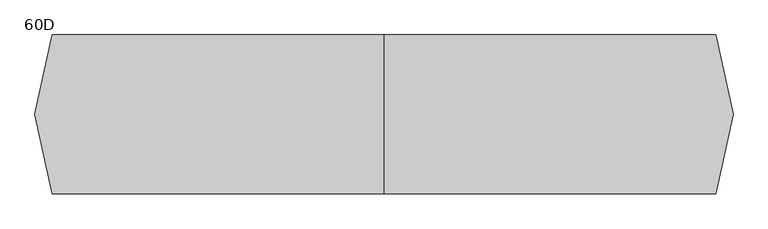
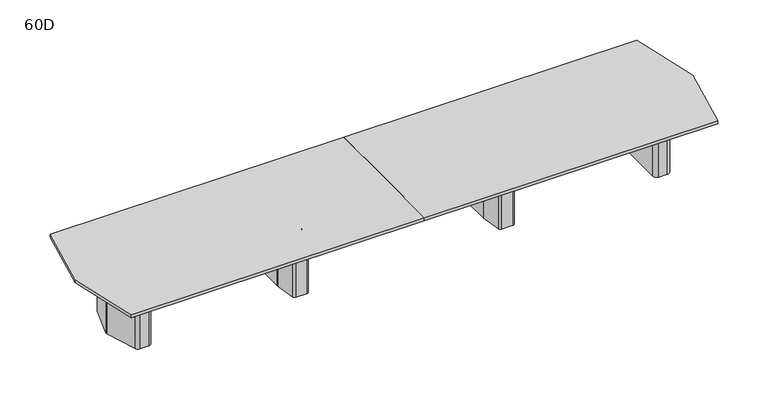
"""IFC4 building model written with IfcOpenShell, lengths in millimetres: furniture geometry, Coalesse_AM_Table_Conference_ETable2_Faceted_22ft_FourBase : 60D."""

from ifc_helpers import new_model, si_unit, point, frame, frame_2d, origin, origin_with_axes, place, context, project, spatial, polyline, circle_curve, trimmed, segment, composite_curve, outline, extrude, source, transform, mapped, element, save
from ifc_brep_helpers import plane_surface, cylinder_surface, revolved_surface, advanced_brep


def furniture_60d_aebbef4b(model_context):
    return source(origin(), model_context, "Body", "SolidModel", [
        advanced_brep(
        [(1178.6357815, 381.0, 698.5), (1056.5642185, 381.0, 698.5), (1031.4114006, 359.1349332, 698.5), (1000.3721821, 138.2753661, 698.5), (1000.125, 134.740433, 698.5), (1000.125, -134.7404196, 698.5), (1000.3721537, -138.2751502, 698.5), (1031.4095605, -359.1347306, 698.5), (1056.5624068, -381.0, 698.5), (1178.6375932, -381.0, 698.5), (1203.7904395, -359.1347306, 698.5), (1234.8278463, -138.2751502, 698.5), (1235.075, -134.7404196, 698.5), (1235.075, 134.740433, 698.5), (1234.8278179, 138.2753661, 698.5), (1203.7885994, 359.1349332, 698.5), (1143.0, 314.325, 698.5), (1168.4, 288.925, 698.5), (1168.4, -288.925, 698.5), (1143.0, -314.325, 698.5), (1092.2, -314.325, 698.5), (1066.8, -288.925, 698.5), (1066.8, 288.925, 698.5), (1092.2, 314.325, 698.5), (1178.6357815, 381.0, 3.175), (1203.7885994, 359.1349332, 3.175), (1234.8278179, 138.2753661, 3.175), (1235.075, 134.740433, 3.175), (1235.075, -134.7404196, 3.175), (1234.8278463, -138.2751502, 3.175), (1203.7904395, -359.1347306, 3.175), (1178.6375932, -381.0, 3.175), (1056.5624068, -381.0, 3.175), (1031.4095605, -359.1347306, 3.175), (1000.3721537, -138.2751502, 3.175), (1000.125, -134.7404196, 3.175), (1000.125, 134.740433, 3.175), (1000.3721821, 138.2753661, 3.175), (1031.4114006, 359.1349332, 3.175), (1056.5642185, 381.0, 3.175), (1143.0, 327.025, 3.175), (1092.2, 327.025, 3.175), (1054.1, 288.925, 3.175), (1054.1, -288.925, 3.175), (1092.2, -327.025, 3.175), (1143.0, -327.025, 3.175), (1181.1, -288.925, 3.175), (1181.1, 288.925, 3.175), (1143.0, 314.325, 3.175), (1168.4, 288.925, 3.175), (1168.4, -288.925, 3.175), (1143.0, -314.325, 3.175), (1092.2, -314.325, 3.175), (1066.8, -288.925, 3.175), (1066.8, 288.925, 3.175), (1092.2, 314.325, 3.175), (1143.0, 327.025, 0.0), (1181.1, 288.925, 0.0), (1181.1, -288.925, 0.0), (1143.0, -327.025, 0.0), (1092.2, -327.025, 0.0), (1054.1, -288.925, 0.0), (1054.1, 288.925, 0.0), (1092.2, 327.025, 0.0)],
        [
            (0, 1),
            (1, 2, circle_curve(frame((1056.5642185, 355.6, 698.5), z_axis=(0.0, 0.0, 1.0), x_axis=(1.0, 0.0, 0.0)), 25.4)),
            (2, 3),
            (3, 4, circle_curve(frame((1025.525, 134.740433, 698.5), z_axis=(0.0, 0.0, 1.0), x_axis=(1.0, 0.0, 0.0)), 25.4)),
            (4, 5),
            (5, 6, circle_curve(frame((1025.525, -134.7404196, 698.5), z_axis=(0.0, 0.0, 1.0), x_axis=(1.0, 0.0, 0.0)), 25.4)),
            (6, 7),
            (7, 8, circle_curve(frame((1056.5624068, -355.6, 698.5), z_axis=(0.0, 0.0, 1.0), x_axis=(1.0, 0.0, 0.0)), 25.4)),
            (8, 9),
            (9, 10, circle_curve(frame((1178.6375932, -355.6, 698.5), z_axis=(0.0, 0.0, 1.0), x_axis=(1.0, 0.0, 0.0)), 25.4)),
            (10, 11),
            (11, 12, circle_curve(frame((1209.675, -134.7404196, 698.5), z_axis=(0.0, 0.0, 1.0), x_axis=(1.0, 0.0, 0.0)), 25.4)),
            (12, 13),
            (13, 14, circle_curve(frame((1209.675, 134.740433, 698.5), z_axis=(0.0, 0.0, 1.0), x_axis=(1.0, 0.0, 0.0)), 25.4)),
            (14, 15),
            (15, 0, circle_curve(frame((1178.6357815, 355.6, 698.5), z_axis=(0.0, 0.0, 1.0), x_axis=(1.0, 0.0, 0.0)), 25.4)),
            (16, 17, circle_curve(frame((1143.0, 288.925, 698.5), z_axis=(0.0, 0.0, -1.0), x_axis=(1.0, 0.0, 0.0)), 25.4)),
            (17, 18),
            (18, 19, circle_curve(frame((1143.0, -288.925, 698.5), z_axis=(0.0, 0.0, -1.0), x_axis=(1.0, 0.0, 0.0)), 25.4)),
            (19, 20),
            (20, 21, circle_curve(frame((1092.2, -288.925, 698.5), z_axis=(0.0, 0.0, -1.0), x_axis=(1.0, 0.0, 0.0)), 25.4)),
            (21, 22),
            (22, 23, circle_curve(frame((1092.2, 288.925, 698.5), z_axis=(0.0, 0.0, -1.0), x_axis=(1.0, 0.0, 0.0)), 25.4)),
            (23, 16),
            (24, 25, circle_curve(frame((1178.6357815, 355.6, 3.175), z_axis=(0.0, 0.0, -1.0), x_axis=(1.0, 0.0, 0.0)), 25.4)),
            (25, 26),
            (26, 27, circle_curve(frame((1209.675, 134.740433, 3.175), z_axis=(0.0, 0.0, -1.0), x_axis=(1.0, 0.0, 0.0)), 25.4)),
            (27, 28),
            (28, 29, circle_curve(frame((1209.675, -134.7404196, 3.175), z_axis=(0.0, 0.0, -1.0), x_axis=(1.0, 0.0, 0.0)), 25.4)),
            (29, 30),
            (30, 31, circle_curve(frame((1178.6375932, -355.6, 3.175), z_axis=(0.0, 0.0, -1.0), x_axis=(1.0, 0.0, 0.0)), 25.4)),
            (31, 32),
            (32, 33, circle_curve(frame((1056.5624068, -355.6, 3.175), z_axis=(0.0, 0.0, -1.0), x_axis=(1.0, 0.0, 0.0)), 25.4)),
            (33, 34),
            (34, 35, circle_curve(frame((1025.525, -134.7404196, 3.175), z_axis=(0.0, 0.0, -1.0), x_axis=(1.0, 0.0, 0.0)), 25.4)),
            (35, 36),
            (36, 37, circle_curve(frame((1025.525, 134.740433, 3.175), z_axis=(0.0, 0.0, -1.0), x_axis=(1.0, 0.0, 0.0)), 25.4)),
            (37, 38),
            (38, 39, circle_curve(frame((1056.5642185, 355.6, 3.175), z_axis=(0.0, 0.0, -1.0), x_axis=(1.0, 0.0, 0.0)), 25.4)),
            (39, 24),
            (40, 41),
            (41, 42, circle_curve(frame((1092.2, 288.925, 3.175), z_axis=(0.0, 0.0, 1.0), x_axis=(1.0, 0.0, 0.0)), 38.1)),
            (42, 43),
            (43, 44, circle_curve(frame((1092.2, -288.925, 3.175), z_axis=(0.0, 0.0, 1.0), x_axis=(1.0, 0.0, 0.0)), 38.1)),
            (44, 45),
            (45, 46, circle_curve(frame((1143.0, -288.925, 3.175), z_axis=(0.0, 0.0, 1.0), x_axis=(1.0, 0.0, 0.0)), 38.1)),
            (46, 47),
            (47, 40, circle_curve(frame((1143.0, 288.925, 3.175), z_axis=(0.0, 0.0, 1.0), x_axis=(1.0, 0.0, 0.0)), 38.1)),
            (0, 24),
            (39, 1),
            (38, 2),
            (37, 3),
            (36, 4),
            (35, 5),
            (34, 6),
            (33, 7),
            (32, 8),
            (31, 9),
            (30, 10),
            (29, 11),
            (28, 12),
            (27, 13),
            (26, 14),
            (25, 15),
            (16, 48),
            (48, 49, circle_curve(frame((1143.0, 288.925, 3.175), z_axis=(0.0, 0.0, -1.0), x_axis=(1.0, 0.0, 0.0)), 25.4)),
            (49, 17),
            (49, 50),
            (50, 18),
            (50, 51, circle_curve(frame((1143.0, -288.925, 3.175), z_axis=(0.0, 0.0, -1.0), x_axis=(1.0, 0.0, 0.0)), 25.4)),
            (51, 19),
            (51, 52),
            (52, 20),
            (52, 53, circle_curve(frame((1092.2, -288.925, 3.175), z_axis=(0.0, 0.0, -1.0), x_axis=(1.0, 0.0, 0.0)), 25.4)),
            (53, 21),
            (53, 54),
            (54, 22),
            (54, 55, circle_curve(frame((1092.2, 288.925, 3.175), z_axis=(0.0, 0.0, -1.0), x_axis=(1.0, 0.0, 0.0)), 25.4)),
            (55, 23),
            (55, 48),
            (56, 57, circle_curve(frame((1143.0, 288.925, 0.0), z_axis=(0.0, 0.0, -1.0), x_axis=(1.0, 0.0, 0.0)), 38.1)),
            (57, 58),
            (58, 59, circle_curve(frame((1143.0, -288.925, 0.0), z_axis=(0.0, 0.0, -1.0), x_axis=(1.0, 0.0, 0.0)), 38.1)),
            (59, 60),
            (60, 61, circle_curve(frame((1092.2, -288.925, 0.0), z_axis=(0.0, 0.0, -1.0), x_axis=(1.0, 0.0, 0.0)), 38.1)),
            (61, 62),
            (62, 63, circle_curve(frame((1092.2, 288.925, 0.0), z_axis=(0.0, 0.0, -1.0), x_axis=(1.0, 0.0, 0.0)), 38.1)),
            (63, 56),
            (63, 41),
            (40, 56),
            (62, 42),
            (61, 43),
            (60, 44),
            (59, 45),
            (58, 46),
            (57, 47),
        ],
        [
            plane_surface(frame((-406.4, 381.0, 698.5), z_axis=(0.0, 0.0, 1.0), x_axis=(-1.0, 0.0, 0.0))),
            plane_surface(frame((-406.4, 381.0, 3.175), z_axis=(0.0, 0.0, -1.0), x_axis=(1.0, 0.0, 0.0))),
            plane_surface(frame((1178.6357815, 381.0, 698.5), z_axis=(0.0, 1.0, 0.0), x_axis=(0.0, 0.0, -1.0))),
            cylinder_surface(frame((1056.5642185, 355.6, 3.175), z_axis=(0.0, 0.0, 1.0), x_axis=(1.0, 0.0, 0.0)), 25.4),
            plane_surface(frame((1031.4114006, 359.1349332, 698.5), z_axis=(-0.9902684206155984, 0.13917059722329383, 0.0), x_axis=(0.0, 0.0, -1.0))),
            cylinder_surface(frame((1025.525, 134.740433, 3.175), z_axis=(0.0, 0.0, 1.0), x_axis=(1.0, 0.0, 0.0)), 25.4),
            plane_surface(frame((1000.125, 134.740433, 698.5), z_axis=(-1.0, 0.0, 0.0), x_axis=(0.0, 0.0, -1.0))),
            cylinder_surface(frame((1025.525, -134.7404196, 3.175), z_axis=(0.0, 0.0, 1.0), x_axis=(1.0, 0.0, 0.0)), 25.4),
            plane_surface(frame((1000.3721537, -138.2751502, 698.5), z_axis=(-0.9902695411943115, -0.1391626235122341, 0.0), x_axis=(0.0, 0.0, -1.0))),
            cylinder_surface(frame((1056.5624068, -355.6, 3.175), z_axis=(0.0, 0.0, 1.0), x_axis=(1.0, 0.0, 0.0)), 25.4),
            plane_surface(frame((1056.5624068, -381.0, 698.5), z_axis=(0.0, -1.0, 0.0), x_axis=(0.0, 0.0, -1.0))),
            cylinder_surface(frame((1178.6375932, -355.6, 3.175), z_axis=(0.0, 0.0, 1.0), x_axis=(1.0, 0.0, 0.0)), 25.4),
            plane_surface(frame((1203.7904395, -359.1347306, 698.5), z_axis=(0.9902695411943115, -0.1391626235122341, 0.0), x_axis=(0.0, 0.0, -1.0))),
            cylinder_surface(frame((1209.675, -134.7404196, 3.175), z_axis=(0.0, 0.0, 1.0), x_axis=(1.0, 0.0, 0.0)), 25.4),
            plane_surface(frame((1235.075, -134.7404196, 698.5), z_axis=(1.0, 0.0, 0.0), x_axis=(0.0, 0.0, -1.0))),
            cylinder_surface(frame((1209.675, 134.740433, 3.175), z_axis=(0.0, 0.0, 1.0), x_axis=(1.0, 0.0, 0.0)), 25.4),
            plane_surface(frame((1234.8278179, 138.2753661, 698.5), z_axis=(0.9902684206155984, 0.13917059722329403, 0.0), x_axis=(0.0, 0.0, -1.0))),
            cylinder_surface(frame((1178.6357815, 355.6, 3.175), z_axis=(0.0, 0.0, 1.0), x_axis=(1.0, 0.0, 0.0)), 25.4),
            revolved_surface(polyline([(1168.4, 288.925, 3.175), (1168.4, 288.925, 698.5)]), (1143.0, 288.925, 0.0), (0.0, 0.0, -1.0)),
            plane_surface(frame((1168.4, 288.925, 698.5), z_axis=(-1.0, 0.0, 0.0), x_axis=(0.0, 0.0, -1.0))),
            revolved_surface(polyline([(1168.4, -288.925, 3.175), (1168.4, -288.925, 698.5)]), (1143.0, -288.925, 0.0), (0.0, 0.0, -1.0)),
            plane_surface(frame((1143.0, -314.325, 698.5), z_axis=(0.0, 1.0, 0.0), x_axis=(0.0, 0.0, -1.0))),
            revolved_surface(polyline([(1117.6000000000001, -288.925, 3.175), (1117.6000000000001, -288.925, 698.5)]), (1092.2, -288.925, 0.0), (0.0, 0.0, -1.0)),
            plane_surface(frame((1066.8, -288.925, 698.5), z_axis=(1.0, 0.0, 0.0), x_axis=(0.0, 0.0, -1.0))),
            revolved_surface(polyline([(1117.6000000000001, 288.925, 3.175), (1117.6000000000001, 288.925, 698.5)]), (1092.2, 288.925, 0.0), (0.0, 0.0, -1.0)),
            plane_surface(frame((1092.2, 314.325, 698.5), z_axis=(0.0, -1.0, 0.0), x_axis=(0.0, 0.0, -1.0))),
            plane_surface(frame((1066.8, 327.025, 3.175), z_axis=(0.0, 0.0, 1.0), x_axis=(-1.0, 0.0, 0.0))),
            plane_surface(frame((1066.8, 327.025, 0.0), z_axis=(0.0, 0.0, -1.0), x_axis=(1.0, 0.0, 0.0))),
            plane_surface(frame((1143.0, 327.025, 3.175), z_axis=(0.0, 1.0, 0.0), x_axis=(0.0, 0.0, -1.0))),
            cylinder_surface(frame((1092.2, 288.925, 0.0), z_axis=(0.0, 0.0, 1.0), x_axis=(1.0, 0.0, 0.0)), 38.1),
            plane_surface(frame((1054.1, 288.925, 3.175), z_axis=(-1.0, 0.0, 0.0), x_axis=(0.0, 0.0, -1.0))),
            cylinder_surface(frame((1092.2, -288.925, 0.0), z_axis=(0.0, 0.0, 1.0), x_axis=(1.0, 0.0, 0.0)), 38.1),
            plane_surface(frame((1092.2, -327.025, 3.175), z_axis=(0.0, -1.0, 0.0), x_axis=(0.0, 0.0, -1.0))),
            cylinder_surface(frame((1143.0, -288.925, 0.0), z_axis=(0.0, 0.0, 1.0), x_axis=(1.0, 0.0, 0.0)), 38.1),
            plane_surface(frame((1181.1, -288.925, 3.175), z_axis=(1.0, 0.0, 0.0), x_axis=(0.0, 0.0, -1.0))),
            cylinder_surface(frame((1143.0, 288.925, 0.0), z_axis=(0.0, 0.0, 1.0), x_axis=(1.0, 0.0, 0.0)), 38.1),
        ],
        [
            (0, [[1, 2, 3, 4, 5, 6, 7, 8, 9, 10, 11, 12, 13, 14, 15, 16], [17, 18, 19, 20, 21, 22, 23, 24]]),
            (1, [[25, 26, 27, 28, 29, 30, 31, 32, 33, 34, 35, 36, 37, 38, 39, 40], [41, 42, 43, 44, 45, 46, 47, 48]]),
            (2, [[-1, 49, -40, 50]]),
            (3, [[-2, -50, -39, 51]]),
            (4, [[-3, -51, -38, 52]]),
            (5, [[-4, -52, -37, 53]]),
            (6, [[-5, -53, -36, 54]]),
            (7, [[-6, -54, -35, 55]]),
            (8, [[-7, -55, -34, 56]]),
            (9, [[-8, -56, -33, 57]]),
            (10, [[-9, -57, -32, 58]]),
            (11, [[-10, -58, -31, 59]]),
            (12, [[-11, -59, -30, 60]]),
            (13, [[-12, -60, -29, 61]]),
            (14, [[-13, -61, -28, 62]]),
            (15, [[-14, -62, -27, 63]]),
            (16, [[-15, -63, -26, 64]]),
            (17, [[-16, -64, -25, -49]]),
            (18, [[-17, 65, 66, 67]]),
            (19, [[-18, -67, 68, 69]]),
            (20, [[-19, -69, 70, 71]]),
            (21, [[-20, -71, 72, 73]]),
            (22, [[-21, -73, 74, 75]]),
            (23, [[-22, -75, 76, 77]]),
            (24, [[-23, -77, 78, 79]]),
            (25, [[-24, -79, 80, -65]]),
            (26, [[-66, -80, -78, -76, -74, -72, -70, -68]]),
            (27, [[81, 82, 83, 84, 85, 86, 87, 88]]),
            (28, [[-88, 89, -41, 90]]),
            (29, [[-87, 91, -42, -89]]),
            (30, [[-86, 92, -43, -91]]),
            (31, [[-85, 93, -44, -92]]),
            (32, [[-84, 94, -45, -93]]),
            (33, [[-83, 95, -46, -94]]),
            (34, [[-82, 96, -47, -95]]),
            (35, [[-81, -90, -48, -96]]),
        ],
    ),
        advanced_brep(
        [(-1056.5642185, 381.0, 698.5), (-1178.6357815, 381.0, 698.5), (-1203.7885994, 359.1349332, 698.5), (-1234.8278179, 138.2753661, 698.5), (-1235.075, 134.740433, 698.5), (-1235.075, -134.7404196, 698.5), (-1234.8278463, -138.2751502, 698.5), (-1203.7904395, -359.1347306, 698.5), (-1178.6375932, -381.0, 698.5), (-1056.5624068, -381.0, 698.5), (-1031.4095605, -359.1347306, 698.5), (-1000.3721537, -138.2751502, 698.5), (-1000.125, -134.7404196, 698.5), (-1000.125, 134.740433, 698.5), (-1000.3721821, 138.2753661, 698.5), (-1031.4114006, 359.1349332, 698.5), (-1092.2, 314.325, 698.5), (-1066.8, 288.925, 698.5), (-1066.8, -288.925, 698.5), (-1092.2, -314.325, 698.5), (-1143.0, -314.325, 698.5), (-1168.4, -288.925, 698.5), (-1168.4, 288.925, 698.5), (-1143.0, 314.325, 698.5), (-1056.5642185, 381.0, 3.175), (-1031.4114006, 359.1349332, 3.175), (-1000.3721821, 138.2753661, 3.175), (-1000.125, 134.740433, 3.175), (-1000.125, -134.7404196, 3.175), (-1000.3721537, -138.2751502, 3.175), (-1031.4095605, -359.1347306, 3.175), (-1056.5624068, -381.0, 3.175), (-1178.6375932, -381.0, 3.175), (-1203.7904395, -359.1347306, 3.175), (-1234.8278463, -138.2751502, 3.175), (-1235.075, -134.7404196, 3.175), (-1235.075, 134.740433, 3.175), (-1234.8278179, 138.2753661, 3.175), (-1203.7885994, 359.1349332, 3.175), (-1178.6357815, 381.0, 3.175), (-1092.2, 327.025, 3.175), (-1143.0, 327.025, 3.175), (-1181.1, 288.925, 3.175), (-1181.1, -288.925, 3.175), (-1143.0, -327.025, 3.175), (-1092.2, -327.025, 3.175), (-1054.1, -288.925, 3.175), (-1054.1, 288.925, 3.175), (-1092.2, 314.325, 3.175), (-1066.8, 288.925, 3.175), (-1066.8, -288.925, 3.175), (-1092.2, -314.325, 3.175), (-1143.0, -314.325, 3.175), (-1168.4, -288.925, 3.175), (-1168.4, 288.925, 3.175), (-1143.0, 314.325, 3.175), (-1092.2, 327.025, 0.0), (-1054.1, 288.925, 0.0), (-1054.1, -288.925, 0.0), (-1092.2, -327.025, 0.0), (-1143.0, -327.025, 0.0), (-1181.1, -288.925, 0.0), (-1181.1, 288.925, 0.0), (-1143.0, 327.025, 0.0)],
        [
            (0, 1),
            (1, 2, circle_curve(frame((-1178.6357815, 355.6, 698.5), z_axis=(0.0, 0.0, 1.0), x_axis=(1.0, 0.0, 0.0)), 25.4)),
            (2, 3),
            (3, 4, circle_curve(frame((-1209.675, 134.740433, 698.5), z_axis=(0.0, 0.0, 1.0), x_axis=(1.0, 0.0, 0.0)), 25.4)),
            (4, 5),
            (5, 6, circle_curve(frame((-1209.675, -134.7404196, 698.5), z_axis=(0.0, 0.0, 1.0), x_axis=(1.0, 0.0, 0.0)), 25.4)),
            (6, 7),
            (7, 8, circle_curve(frame((-1178.6375932, -355.6, 698.5), z_axis=(0.0, 0.0, 1.0), x_axis=(1.0, 0.0, 0.0)), 25.4)),
            (8, 9),
            (9, 10, circle_curve(frame((-1056.5624068, -355.6, 698.5), z_axis=(0.0, 0.0, 1.0), x_axis=(1.0, 0.0, 0.0)), 25.4)),
            (10, 11),
            (11, 12, circle_curve(frame((-1025.525, -134.7404196, 698.5), z_axis=(0.0, 0.0, 1.0), x_axis=(1.0, 0.0, 0.0)), 25.4)),
            (12, 13),
            (13, 14, circle_curve(frame((-1025.525, 134.740433, 698.5), z_axis=(0.0, 0.0, 1.0), x_axis=(1.0, 0.0, 0.0)), 25.4)),
            (14, 15),
            (15, 0, circle_curve(frame((-1056.5642185, 355.6, 698.5), z_axis=(0.0, 0.0, 1.0), x_axis=(1.0, 0.0, 0.0)), 25.4)),
            (16, 17, circle_curve(frame((-1092.2, 288.925, 698.5), z_axis=(0.0, 0.0, -1.0), x_axis=(1.0, 0.0, 0.0)), 25.4)),
            (17, 18),
            (18, 19, circle_curve(frame((-1092.2, -288.925, 698.5), z_axis=(0.0, 0.0, -1.0), x_axis=(1.0, 0.0, 0.0)), 25.4)),
            (19, 20),
            (20, 21, circle_curve(frame((-1143.0, -288.925, 698.5), z_axis=(0.0, 0.0, -1.0), x_axis=(1.0, 0.0, 0.0)), 25.4)),
            (21, 22),
            (22, 23, circle_curve(frame((-1143.0, 288.925, 698.5), z_axis=(0.0, 0.0, -1.0), x_axis=(1.0, 0.0, 0.0)), 25.4)),
            (23, 16),
            (24, 25, circle_curve(frame((-1056.5642185, 355.6, 3.175), z_axis=(0.0, 0.0, -1.0), x_axis=(1.0, 0.0, 0.0)), 25.4)),
            (25, 26),
            (26, 27, circle_curve(frame((-1025.525, 134.740433, 3.175), z_axis=(0.0, 0.0, -1.0), x_axis=(1.0, 0.0, 0.0)), 25.4)),
            (27, 28),
            (28, 29, circle_curve(frame((-1025.525, -134.7404196, 3.175), z_axis=(0.0, 0.0, -1.0), x_axis=(1.0, 0.0, 0.0)), 25.4)),
            (29, 30),
            (30, 31, circle_curve(frame((-1056.5624068, -355.6, 3.175), z_axis=(0.0, 0.0, -1.0), x_axis=(1.0, 0.0, 0.0)), 25.4)),
            (31, 32),
            (32, 33, circle_curve(frame((-1178.6375932, -355.6, 3.175), z_axis=(0.0, 0.0, -1.0), x_axis=(1.0, 0.0, 0.0)), 25.4)),
            (33, 34),
            (34, 35, circle_curve(frame((-1209.675, -134.7404196, 3.175), z_axis=(0.0, 0.0, -1.0), x_axis=(1.0, 0.0, 0.0)), 25.4)),
            (35, 36),
            (36, 37, circle_curve(frame((-1209.675, 134.740433, 3.175), z_axis=(0.0, 0.0, -1.0), x_axis=(1.0, 0.0, 0.0)), 25.4)),
            (37, 38),
            (38, 39, circle_curve(frame((-1178.6357815, 355.6, 3.175), z_axis=(0.0, 0.0, -1.0), x_axis=(1.0, 0.0, 0.0)), 25.4)),
            (39, 24),
            (40, 41),
            (41, 42, circle_curve(frame((-1143.0, 288.925, 3.175), z_axis=(0.0, 0.0, 1.0), x_axis=(1.0, 0.0, 0.0)), 38.1)),
            (42, 43),
            (43, 44, circle_curve(frame((-1143.0, -288.925, 3.175), z_axis=(0.0, 0.0, 1.0), x_axis=(1.0, 0.0, 0.0)), 38.1)),
            (44, 45),
            (45, 46, circle_curve(frame((-1092.2, -288.925, 3.175), z_axis=(0.0, 0.0, 1.0), x_axis=(1.0, 0.0, 0.0)), 38.1)),
            (46, 47),
            (47, 40, circle_curve(frame((-1092.2, 288.925, 3.175), z_axis=(0.0, 0.0, 1.0), x_axis=(1.0, 0.0, 0.0)), 38.1)),
            (0, 24),
            (39, 1),
            (38, 2),
            (37, 3),
            (36, 4),
            (35, 5),
            (34, 6),
            (33, 7),
            (32, 8),
            (31, 9),
            (30, 10),
            (29, 11),
            (28, 12),
            (27, 13),
            (26, 14),
            (25, 15),
            (16, 48),
            (48, 49, circle_curve(frame((-1092.2, 288.925, 3.175), z_axis=(0.0, 0.0, -1.0), x_axis=(1.0, 0.0, 0.0)), 25.4)),
            (49, 17),
            (49, 50),
            (50, 18),
            (50, 51, circle_curve(frame((-1092.2, -288.925, 3.175), z_axis=(0.0, 0.0, -1.0), x_axis=(1.0, 0.0, 0.0)), 25.4)),
            (51, 19),
            (51, 52),
            (52, 20),
            (52, 53, circle_curve(frame((-1143.0, -288.925, 3.175), z_axis=(0.0, 0.0, -1.0), x_axis=(1.0, 0.0, 0.0)), 25.4)),
            (53, 21),
            (53, 54),
            (54, 22),
            (54, 55, circle_curve(frame((-1143.0, 288.925, 3.175), z_axis=(0.0, 0.0, -1.0), x_axis=(1.0, 0.0, 0.0)), 25.4)),
            (55, 23),
            (55, 48),
            (56, 57, circle_curve(frame((-1092.2, 288.925, 0.0), z_axis=(0.0, 0.0, -1.0), x_axis=(1.0, 0.0, 0.0)), 38.1)),
            (57, 58),
            (58, 59, circle_curve(frame((-1092.2, -288.925, 0.0), z_axis=(0.0, 0.0, -1.0), x_axis=(1.0, 0.0, 0.0)), 38.1)),
            (59, 60),
            (60, 61, circle_curve(frame((-1143.0, -288.925, 0.0), z_axis=(0.0, 0.0, -1.0), x_axis=(1.0, 0.0, 0.0)), 38.1)),
            (61, 62),
            (62, 63, circle_curve(frame((-1143.0, 288.925, 0.0), z_axis=(0.0, 0.0, -1.0), x_axis=(1.0, 0.0, 0.0)), 38.1)),
            (63, 56),
            (63, 41),
            (40, 56),
            (62, 42),
            (61, 43),
            (60, 44),
            (59, 45),
            (58, 46),
            (57, 47),
        ],
        [
            plane_surface(frame((-2641.6, 381.0, 698.5), z_axis=(0.0, 0.0, 1.0), x_axis=(-1.0, 0.0, 0.0))),
            plane_surface(frame((-2641.6, 381.0, 3.175), z_axis=(0.0, 0.0, -1.0), x_axis=(1.0, 0.0, 0.0))),
            plane_surface(frame((-1056.5642185, 381.0, 698.5), z_axis=(0.0, 1.0, 0.0), x_axis=(0.0, 0.0, -1.0))),
            cylinder_surface(frame((-1178.6357815, 355.6, 3.175), z_axis=(0.0, 0.0, 1.0), x_axis=(1.0, 0.0, 0.0)), 25.4),
            plane_surface(frame((-1203.7885994, 359.1349332, 698.5), z_axis=(-0.9902684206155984, 0.13917059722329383, 0.0), x_axis=(0.0, 0.0, -1.0))),
            cylinder_surface(frame((-1209.675, 134.740433, 3.175), z_axis=(0.0, 0.0, 1.0), x_axis=(1.0, 0.0, 0.0)), 25.4),
            plane_surface(frame((-1235.075, 134.740433, 698.5), z_axis=(-1.0, 0.0, 0.0), x_axis=(0.0, 0.0, -1.0))),
            cylinder_surface(frame((-1209.675, -134.7404196, 3.175), z_axis=(0.0, 0.0, 1.0), x_axis=(1.0, 0.0, 0.0)), 25.4),
            plane_surface(frame((-1234.8278463, -138.2751502, 698.5), z_axis=(-0.9902695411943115, -0.1391626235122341, 0.0), x_axis=(0.0, 0.0, -1.0))),
            cylinder_surface(frame((-1178.6375932, -355.6, 3.175), z_axis=(0.0, 0.0, 1.0), x_axis=(1.0, 0.0, 0.0)), 25.4),
            plane_surface(frame((-1178.6375932, -381.0, 698.5), z_axis=(0.0, -1.0, 0.0), x_axis=(0.0, 0.0, -1.0))),
            cylinder_surface(frame((-1056.5624068, -355.6, 3.175), z_axis=(0.0, 0.0, 1.0), x_axis=(1.0, 0.0, 0.0)), 25.4),
            plane_surface(frame((-1031.4095605, -359.1347306, 698.5), z_axis=(0.9902695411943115, -0.1391626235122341, 0.0), x_axis=(0.0, 0.0, -1.0))),
            cylinder_surface(frame((-1025.525, -134.7404196, 3.175), z_axis=(0.0, 0.0, 1.0), x_axis=(1.0, 0.0, 0.0)), 25.4),
            plane_surface(frame((-1000.125, -134.7404196, 698.5), z_axis=(1.0, 0.0, 0.0), x_axis=(0.0, 0.0, -1.0))),
            cylinder_surface(frame((-1025.525, 134.740433, 3.175), z_axis=(0.0, 0.0, 1.0), x_axis=(1.0, 0.0, 0.0)), 25.4),
            plane_surface(frame((-1000.3721821, 138.2753661, 698.5), z_axis=(0.9902684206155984, 0.13917059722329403, 0.0), x_axis=(0.0, 0.0, -1.0))),
            cylinder_surface(frame((-1056.5642185, 355.6, 3.175), z_axis=(0.0, 0.0, 1.0), x_axis=(1.0, 0.0, 0.0)), 25.4),
            revolved_surface(polyline([(-1066.8, 288.925, 3.175), (-1066.8, 288.925, 698.5)]), (-1092.2, 288.925, 0.0), (0.0, 0.0, -1.0)),
            plane_surface(frame((-1066.8, 288.925, 698.5), z_axis=(-1.0, 0.0, 0.0), x_axis=(0.0, 0.0, -1.0))),
            revolved_surface(polyline([(-1066.8, -288.925, 3.175), (-1066.8, -288.925, 698.5)]), (-1092.2, -288.925, 0.0), (0.0, 0.0, -1.0)),
            plane_surface(frame((-1092.2, -314.325, 698.5), z_axis=(0.0, 1.0, 0.0), x_axis=(0.0, 0.0, -1.0))),
            revolved_surface(polyline([(-1117.6, -288.925, 3.175), (-1117.6, -288.925, 698.5)]), (-1143.0, -288.925, 0.0), (0.0, 0.0, -1.0)),
            plane_surface(frame((-1168.4, -288.925, 698.5), z_axis=(1.0, 0.0, 0.0), x_axis=(0.0, 0.0, -1.0))),
            revolved_surface(polyline([(-1117.6, 288.925, 3.175), (-1117.6, 288.925, 698.5)]), (-1143.0, 288.925, 0.0), (0.0, 0.0, -1.0)),
            plane_surface(frame((-1143.0, 314.325, 698.5), z_axis=(0.0, -1.0, 0.0), x_axis=(0.0, 0.0, -1.0))),
            plane_surface(frame((-1168.4, 327.025, 3.175), z_axis=(0.0, 0.0, 1.0), x_axis=(-1.0, 0.0, 0.0))),
            plane_surface(frame((-1168.4, 327.025, 0.0), z_axis=(0.0, 0.0, -1.0), x_axis=(1.0, 0.0, 0.0))),
            plane_surface(frame((-1092.2, 327.025, 3.175), z_axis=(0.0, 1.0, 0.0), x_axis=(0.0, 0.0, -1.0))),
            cylinder_surface(frame((-1143.0, 288.925, 0.0), z_axis=(0.0, 0.0, 1.0), x_axis=(1.0, 0.0, 0.0)), 38.1),
            plane_surface(frame((-1181.1, 288.925, 3.175), z_axis=(-1.0, 0.0, 0.0), x_axis=(0.0, 0.0, -1.0))),
            cylinder_surface(frame((-1143.0, -288.925, 0.0), z_axis=(0.0, 0.0, 1.0), x_axis=(1.0, 0.0, 0.0)), 38.1),
            plane_surface(frame((-1143.0, -327.025, 3.175), z_axis=(0.0, -1.0, 0.0), x_axis=(0.0, 0.0, -1.0))),
            cylinder_surface(frame((-1092.2, -288.925, 0.0), z_axis=(0.0, 0.0, 1.0), x_axis=(1.0, 0.0, 0.0)), 38.1),
            plane_surface(frame((-1054.1, -288.925, 3.175), z_axis=(1.0, 0.0, 0.0), x_axis=(0.0, 0.0, -1.0))),
            cylinder_surface(frame((-1092.2, 288.925, 0.0), z_axis=(0.0, 0.0, 1.0), x_axis=(1.0, 0.0, 0.0)), 38.1),
        ],
        [
            (0, [[1, 2, 3, 4, 5, 6, 7, 8, 9, 10, 11, 12, 13, 14, 15, 16], [17, 18, 19, 20, 21, 22, 23, 24]]),
            (1, [[25, 26, 27, 28, 29, 30, 31, 32, 33, 34, 35, 36, 37, 38, 39, 40], [41, 42, 43, 44, 45, 46, 47, 48]]),
            (2, [[-1, 49, -40, 50]]),
            (3, [[-2, -50, -39, 51]]),
            (4, [[-3, -51, -38, 52]]),
            (5, [[-4, -52, -37, 53]]),
            (6, [[-5, -53, -36, 54]]),
            (7, [[-6, -54, -35, 55]]),
            (8, [[-7, -55, -34, 56]]),
            (9, [[-8, -56, -33, 57]]),
            (10, [[-9, -57, -32, 58]]),
            (11, [[-10, -58, -31, 59]]),
            (12, [[-11, -59, -30, 60]]),
            (13, [[-12, -60, -29, 61]]),
            (14, [[-13, -61, -28, 62]]),
            (15, [[-14, -62, -27, 63]]),
            (16, [[-15, -63, -26, 64]]),
            (17, [[-16, -64, -25, -49]]),
            (18, [[-17, 65, 66, 67]]),
            (19, [[-18, -67, 68, 69]]),
            (20, [[-19, -69, 70, 71]]),
            (21, [[-20, -71, 72, 73]]),
            (22, [[-21, -73, 74, 75]]),
            (23, [[-22, -75, 76, 77]]),
            (24, [[-23, -77, 78, 79]]),
            (25, [[-24, -79, 80, -65]]),
            (26, [[-66, -80, -78, -76, -74, -72, -70, -68]]),
            (27, [[81, 82, 83, 84, 85, 86, 87, 88]]),
            (28, [[-88, 89, -41, 90]]),
            (29, [[-87, 91, -42, -89]]),
            (30, [[-86, 92, -43, -91]]),
            (31, [[-85, 93, -44, -92]]),
            (32, [[-84, 94, -45, -93]]),
            (33, [[-83, 95, -46, -94]]),
            (34, [[-82, 96, -47, -95]]),
            (35, [[-81, -90, -48, -96]]),
        ],
    ),
        extrude(outline(composite_curve([segment(polyline([(2951.1625, 101.7236478), (2951.1625, -97.2761514)]), True, "CONTINUOUS"), segment(trimmed(circle_curve(frame_2d((2913.0625, -97.2761514)), 38.1), [point((2951.1625, -97.2761514))], [point((2949.3991129, -108.7330515))], False, "CARTESIAN"), True, "CONTINUOUS"), segment(polyline([(2949.3991129, -108.7330515), (2890.9745591, -294.0319001)]), True, "CONTINUOUS"), segment(trimmed(circle_curve(frame_2d((2854.6379462, -282.575)), 38.1), [point((2890.9745591, -294.0319001))], [point((2854.6379462, -320.675))], False, "CARTESIAN"), True, "CONTINUOUS"), segment(polyline([(2854.6379462, -320.675), (2787.65, -320.675)]), True, "CONTINUOUS"), segment(trimmed(circle_curve(frame_2d((2787.65, -282.575)), 38.1), [point((2787.65, -320.675))], [point((2749.55, -282.575))], False, "CARTESIAN"), True, "CONTINUOUS"), segment(polyline([(2749.55, -282.575), (2749.55, 282.575)]), True, "CONTINUOUS"), segment(trimmed(circle_curve(frame_2d((2787.65, 282.575)), 38.1), [point((2749.55, 282.575))], [point((2787.65, 320.675))], False, "CARTESIAN"), True, "CONTINUOUS"), segment(polyline([(2787.65, 320.675), (2858.3873998, 320.675)]), True, "CONTINUOUS"), segment(trimmed(circle_curve(frame_2d((2858.3873998, 282.575)), 38.1), [point((2858.3873998, 320.675))], [point((2894.8572049, 293.6005756))], False, "CARTESIAN"), True, "CONTINUOUS"), segment(polyline([(2894.8572049, 293.6005756), (2949.5323051, 112.7492234)]), True, "CONTINUOUS"), segment(trimmed(circle_curve(frame_2d((2913.0625, 101.7236478)), 38.1), [point((2949.5323051, 112.7492234))], [point((2951.1625, 101.7236478))], False, "CARTESIAN"), True, "CONTINUOUS")], self_intersect=False)), origin_with_axes(), (0.0, 0.0, 1.0), 3.175),
        extrude(outline(composite_curve([segment(polyline([(2771.775, 381.0), (2859.9221663, 381.0)]), True, "CONTINUOUS"), segment(trimmed(circle_curve(frame_2d((2859.9221663, 339.725)), 41.275), [point((2859.9221663, 381.0))], [point((2899.2868303, 352.1366418))], False, "CARTESIAN"), True, "CONTINUOUS"), segment(polyline([(2899.2868303, 352.1366418), (3006.4018053, 12.4116418)]), True, "CONTINUOUS"), segment(trimmed(circle_curve(frame_2d((2967.0371413, 0.0)), 41.275), [point((3006.4018053, 12.4116418))], [point((3006.4018053, -12.4116418))], False, "CARTESIAN"), True, "CONTINUOUS"), segment(polyline([(3006.4018053, -12.4116418), (2899.2868303, -352.1366418)]), True, "CONTINUOUS"), segment(trimmed(circle_curve(frame_2d((2859.9221663, -339.725)), 41.275), [point((2899.2868303, -352.1366418))], [point((2859.9221663, -381.0))], False, "CARTESIAN"), True, "CONTINUOUS"), segment(polyline([(2859.9221663, -381.0), (2765.425, -381.0)]), True, "CONTINUOUS"), segment(trimmed(circle_curve(frame_2d((2765.425, -339.725)), 41.275), [point((2765.425, -381.0))], [point((2724.15, -339.725))], False, "CARTESIAN"), True, "CONTINUOUS"), segment(polyline([(2724.15, -339.725), (2724.15, 333.375)]), True, "CONTINUOUS"), segment(trimmed(circle_curve(frame_2d((2771.775, 333.375)), 47.625), [point((2724.15, 333.375))], [point((2771.775, 381.0))], False, "CARTESIAN"), True, "CONTINUOUS")], self_intersect=False), holes=[composite_curve([segment(trimmed(circle_curve(frame_2d((2787.65, -282.575)), 25.4), [point((2762.25, -282.575))], [point((2787.65, -307.975))], True, "CARTESIAN"), True, "CONTINUOUS"), segment(polyline([(2787.65, -307.975), (2854.6379462, -307.975)]), True, "CONTINUOUS"), segment(trimmed(circle_curve(frame_2d((2854.6379462, -282.575)), 25.4), [point((2854.6379462, -307.975))], [point((2878.8623548, -290.2129334))], True, "CARTESIAN"), True, "CONTINUOUS"), segment(polyline([(2878.8623548, -290.2129334), (2937.2869086, -104.9140848)]), True, "CONTINUOUS"), segment(trimmed(circle_curve(frame_2d((2913.0625, -97.2761514)), 25.4), [point((2937.2869086, -104.9140848))], [point((2938.4625, -97.2761514))], True, "CARTESIAN"), True, "CONTINUOUS"), segment(polyline([(2938.4625, -97.2761514), (2938.4625, 101.7236478)]), True, "CONTINUOUS"), segment(trimmed(circle_curve(frame_2d((2913.0625, 101.7236478)), 25.4), [point((2938.4625, 101.7236478))], [point((2937.3757034, 109.0740316))], True, "CARTESIAN"), True, "CONTINUOUS"), segment(polyline([(2937.3757034, 109.0740316), (2882.7006032, 289.9253837)]), True, "CONTINUOUS"), segment(trimmed(circle_curve(frame_2d((2858.3873998, 282.575)), 25.4), [point((2882.7006032, 289.9253837))], [point((2858.3873998, 307.975))], True, "CARTESIAN"), True, "CONTINUOUS"), segment(polyline([(2858.3873998, 307.975), (2787.65, 307.975)]), True, "CONTINUOUS"), segment(trimmed(circle_curve(frame_2d((2787.65, 282.575)), 25.4), [point((2787.65, 307.975))], [point((2762.25, 282.575))], True, "CARTESIAN"), True, "CONTINUOUS"), segment(polyline([(2762.25, 282.575), (2762.25, -282.575)]), True, "CONTINUOUS")], self_intersect=False)]), frame((0.0, 0.0, 3.175), z_axis=(0.0, 0.0, 1.0), x_axis=(1.0, 0.0, 0.0)), (0.0, 0.0, 1.0), 695.325),
        extrude(outline(composite_curve([segment(trimmed(circle_curve(frame_2d((-2924.175, 101.7236478)), 38.1), [point((-2962.275, 101.7236478))], [point((-2960.6448051, 112.7492234))], False, "CARTESIAN"), True, "CONTINUOUS"), segment(polyline([(-2960.6448051, 112.7492234), (-2905.9697049, 293.6005756)]), True, "CONTINUOUS"), segment(trimmed(circle_curve(frame_2d((-2869.4998998, 282.575)), 38.1), [point((-2905.9697049, 293.6005756))], [point((-2869.4998998, 320.675))], False, "CARTESIAN"), True, "CONTINUOUS"), segment(polyline([(-2869.4998998, 320.675), (-2798.7625, 320.675)]), True, "CONTINUOUS"), segment(trimmed(circle_curve(frame_2d((-2798.7625, 282.575)), 38.1), [point((-2798.7625, 320.675))], [point((-2760.6625, 282.575))], False, "CARTESIAN"), True, "CONTINUOUS"), segment(polyline([(-2760.6625, 282.575), (-2760.6625, -282.575)]), True, "CONTINUOUS"), segment(trimmed(circle_curve(frame_2d((-2798.7625, -282.575)), 38.1), [point((-2760.6625, -282.575))], [point((-2798.7625, -320.675))], False, "CARTESIAN"), True, "CONTINUOUS"), segment(polyline([(-2798.7625, -320.675), (-2865.7504462, -320.675)]), True, "CONTINUOUS"), segment(trimmed(circle_curve(frame_2d((-2865.7504462, -282.575)), 38.1), [point((-2865.7504462, -320.675))], [point((-2902.0870591, -294.0319001))], False, "CARTESIAN"), True, "CONTINUOUS"), segment(polyline([(-2902.0870591, -294.0319001), (-2960.5116129, -108.7330515)]), True, "CONTINUOUS"), segment(trimmed(circle_curve(frame_2d((-2924.175, -97.2761514)), 38.1), [point((-2960.5116129, -108.7330515))], [point((-2962.275, -97.2761514))], False, "CARTESIAN"), True, "CONTINUOUS"), segment(polyline([(-2962.275, -97.2761514), (-2962.275, 101.7236478)]), True, "CONTINUOUS")], self_intersect=False)), origin_with_axes(), (0.0, 0.0, 1.0), 3.175),
        extrude(outline(composite_curve([segment(trimmed(circle_curve(frame_2d((-2782.8875, 333.375)), 47.625), [point((-2782.8875, 381.0))], [point((-2735.2625, 333.375))], False, "CARTESIAN"), True, "CONTINUOUS"), segment(polyline([(-2735.2625, 333.375), (-2735.2625, -339.725)]), True, "CONTINUOUS"), segment(trimmed(circle_curve(frame_2d((-2776.5375, -339.725)), 41.275), [point((-2735.2625, -339.725))], [point((-2776.5375, -381.0))], False, "CARTESIAN"), True, "CONTINUOUS"), segment(polyline([(-2776.5375, -381.0), (-2871.0346663, -381.0)]), True, "CONTINUOUS"), segment(trimmed(circle_curve(frame_2d((-2871.0346663, -339.725)), 41.275), [point((-2871.0346663, -381.0))], [point((-2910.3993303, -352.1366418))], False, "CARTESIAN"), True, "CONTINUOUS"), segment(polyline([(-2910.3993303, -352.1366418), (-3017.5143053, -12.4116418)]), True, "CONTINUOUS"), segment(trimmed(circle_curve(frame_2d((-2978.1496413, 0.0)), 41.275), [point((-3017.5143053, -12.4116418))], [point((-3017.5143053, 12.4116418))], False, "CARTESIAN"), True, "CONTINUOUS"), segment(polyline([(-3017.5143053, 12.4116418), (-2910.3993303, 352.1366418)]), True, "CONTINUOUS"), segment(trimmed(circle_curve(frame_2d((-2871.0346663, 339.725)), 41.275), [point((-2910.3993303, 352.1366418))], [point((-2871.0346663, 381.0))], False, "CARTESIAN"), True, "CONTINUOUS"), segment(polyline([(-2871.0346663, 381.0), (-2782.8875, 381.0)]), True, "CONTINUOUS")], self_intersect=False), holes=[composite_curve([segment(polyline([(-2773.3625, -282.575), (-2773.3625, 282.575)]), True, "CONTINUOUS"), segment(trimmed(circle_curve(frame_2d((-2798.7625, 282.575)), 25.4), [point((-2773.3625, 282.575))], [point((-2798.7625, 307.975))], True, "CARTESIAN"), True, "CONTINUOUS"), segment(polyline([(-2798.7625, 307.975), (-2869.4998998, 307.975)]), True, "CONTINUOUS"), segment(trimmed(circle_curve(frame_2d((-2869.4998998, 282.575)), 25.4), [point((-2869.4998998, 307.975))], [point((-2893.8131032, 289.9253837))], True, "CARTESIAN"), True, "CONTINUOUS"), segment(polyline([(-2893.8131032, 289.9253837), (-2948.4882034, 109.0740316)]), True, "CONTINUOUS"), segment(trimmed(circle_curve(frame_2d((-2924.175, 101.7236478)), 25.4), [point((-2948.4882034, 109.0740316))], [point((-2949.575, 101.7236478))], True, "CARTESIAN"), True, "CONTINUOUS"), segment(polyline([(-2949.575, 101.7236478), (-2949.575, -97.2761514)]), True, "CONTINUOUS"), segment(trimmed(circle_curve(frame_2d((-2924.175, -97.2761514)), 25.4), [point((-2949.575, -97.2761514))], [point((-2948.3994086, -104.9140848))], True, "CARTESIAN"), True, "CONTINUOUS"), segment(polyline([(-2948.3994086, -104.9140848), (-2889.9748548, -290.2129334)]), True, "CONTINUOUS"), segment(trimmed(circle_curve(frame_2d((-2865.7504462, -282.575)), 25.4), [point((-2889.9748548, -290.2129334))], [point((-2865.7504462, -307.975))], True, "CARTESIAN"), True, "CONTINUOUS"), segment(polyline([(-2865.7504462, -307.975), (-2798.7625, -307.975)]), True, "CONTINUOUS"), segment(trimmed(circle_curve(frame_2d((-2798.7625, -282.575)), 25.4), [point((-2798.7625, -307.975))], [point((-2773.3625, -282.575))], True, "CARTESIAN"), True, "CONTINUOUS")], self_intersect=False)]), frame((0.0, 0.0, 3.175), z_axis=(0.0, 0.0, 1.0), x_axis=(1.0, 0.0, 0.0)), (0.0, 0.0, 1.0), 695.325),
        extrude(outline(polyline([(3183.8677242, 762.0), (3352.8, 0.0), (3183.8677242, -762.0), (0.0, -762.0), (0.0, 7.1178102), (0.0, 762.0), (3183.8677242, 762.0)])), frame((0.0, 0.0, 698.5), z_axis=(0.0, 0.0, 1.0), x_axis=(1.0, 0.0, 0.0)), (0.0, 0.0, 1.0), 38.1),
        extrude(outline(polyline([(0.0, 119.0384901), (0.0, -762.0), (-3183.8677242, -762.0), (-3352.8, 0.0), (-3183.8677242, 762.0), (0.0, 762.0), (0.0, 119.0384901)])), frame((0.0, 0.0, 698.5), z_axis=(0.0, 0.0, 1.0), x_axis=(1.0, 0.0, 0.0)), (0.0, 0.0, 1.0), 38.1),
        extrude(outline(polyline([(96.8375, 698.5), (103.1875, 698.5), (103.1875, 476.25), (-103.1875, 476.25), (-103.1875, 698.5), (-96.8375, 698.5), (-96.8375, 482.6), (96.8375, 482.6), (96.8375, 698.5)])), frame((-2735.2625, 0.0, 0.0), z_axis=(1.0, 0.0, 0.0), x_axis=(0.0, 1.0, 0.0)), (0.0, 0.0, 1.0), 5459.4125),
    ])


if __name__ == "__main__":
    model = new_model("IFC4")
    model_context = context("Model", 3, world=origin())
    ifc_project = project(units=[si_unit("LENGTHUNIT", "METRE", prefix="MILLI")], contexts=[model_context])
    site = spatial("IfcSite", under=ifc_project)
    building = spatial("IfcBuilding", under=site)
    placement = place(None, origin())
    furniture_60d_shape = furniture_60d_aebbef4b(model_context)
    element("IfcFurniture", 1, ObjectType="Coalesse_AM_Table_Conference_ETable2_Faceted_22ft_FourBase : 60D", at=placement, inside=building, context=model_context, shape_type="MappedRepresentation", body=[
        mapped(furniture_60d_shape, transform((0.0, 0.0, 0.0), x_axis=(1.0, 0.0, 0.0), y_axis=(0.0, 1.0, 0.0), z_axis=(0.0, 0.0, 1.0))),
    ])
    save(model, "model.ifc")
